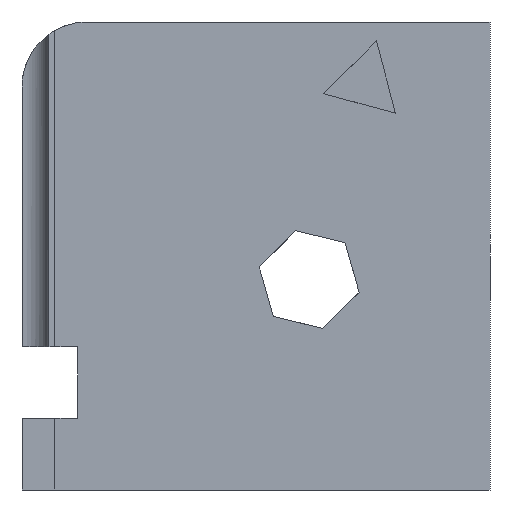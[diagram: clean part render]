
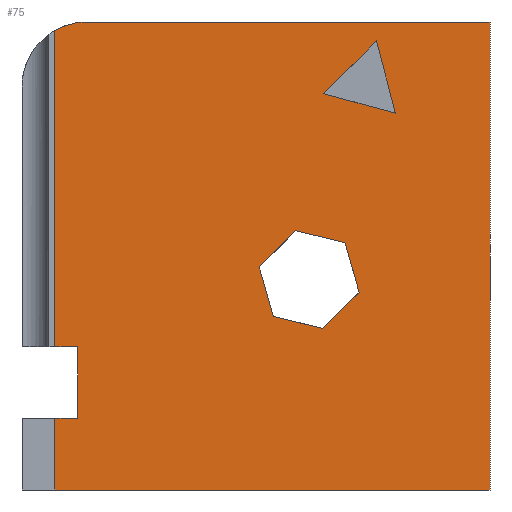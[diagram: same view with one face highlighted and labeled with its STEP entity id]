
A CAD part, front view. The second image highlights one B-rep face of the part: STEP entity #75.
In plain terms, the highlighted planar face has unit normal (0, -1, 0).
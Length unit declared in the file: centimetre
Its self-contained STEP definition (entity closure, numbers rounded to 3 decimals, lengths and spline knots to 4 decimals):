
#12 = LINE ( 'NONE', #1574, #1381 ) ;
#13 = VERTEX_POINT ( 'NONE', #1195 ) ;
#21 = VECTOR ( 'NONE', #477, 100. ) ;
#35 = VECTOR ( 'NONE', #190, 100. ) ;
#53 = ORIENTED_EDGE ( 'NONE', *, *, #1829, .T. ) ;
#75 = ADVANCED_FACE ( 'NONE', ( #1213, #912, #735 ), #901, .F. ) ;
#79 = DIRECTION ( 'NONE',  ( 0., 0., -1. ) ) ;
#88 = ORIENTED_EDGE ( 'NONE', *, *, #961, .T. ) ;
#109 = VERTEX_POINT ( 'NONE', #1048 ) ;
#117 = EDGE_CURVE ( 'NONE', #1751, #1415, #1371, .T. ) ;
#125 = VECTOR ( 'NONE', #730, 100. ) ;
#134 = CARTESIAN_POINT ( 'NONE',  ( 0., 0., 0. ) ) ;
#135 = CARTESIAN_POINT ( 'NONE',  ( 757.1955, 0., 959.6609 ) ) ;
#146 = DIRECTION ( 'NONE',  ( 0.966, 0., -0.26 ) ) ;
#179 = ORIENTED_EDGE ( 'NONE', *, *, #1235, .F. ) ;
#182 = VECTOR ( 'NONE', #590, 100. ) ;
#190 = DIRECTION ( 'NONE',  ( 1., 0., 0. ) ) ;
#205 = LINE ( 'NONE', #1608, #837 ) ;
#240 = LINE ( 'NONE', #1486, #575 ) ;
#250 = VERTEX_POINT ( 'NONE', #1748 ) ;
#267 = VERTEX_POINT ( 'NONE', #770 ) ;
#279 = CARTESIAN_POINT ( 'NONE',  ( 70.1198, 0., 1000. ) ) ;
#282 = LINE ( 'NONE', #135, #1497 ) ;
#299 = CARTESIAN_POINT ( 'NONE',  ( 118.7286, 0., 153.2835 ) ) ;
#301 = CIRCLE ( 'NONE', #762, 139.0908 ) ;
#306 = CARTESIAN_POINT ( 'NONE',  ( 70.1198, 0., 153.2835 ) ) ;
#314 = VECTOR ( 'NONE', #1364, 100. ) ;
#330 = ORIENTED_EDGE ( 'NONE', *, *, #1414, .T. ) ;
#341 = CARTESIAN_POINT ( 'NONE',  ( 0., 0., 305.9088 ) ) ;
#349 = LINE ( 'NONE', #341, #35 ) ;
#351 = ORIENTED_EDGE ( 'NONE', *, *, #449, .F. ) ;
#377 = VECTOR ( 'NONE', #634, 100. ) ;
#426 = DIRECTION ( 'NONE',  ( 0.707, 0., 0.707 ) ) ;
#429 = VECTOR ( 'NONE', #426, 100. ) ;
#439 = ORIENTED_EDGE ( 'NONE', *, *, #889, .F. ) ;
#449 = EDGE_CURVE ( 'NONE', #992, #1238, #838, .T. ) ;
#461 = VERTEX_POINT ( 'NONE', #1165 ) ;
#469 = CARTESIAN_POINT ( 'NONE',  ( 584.6951, 0., 554.2497 ) ) ;
#475 = VECTOR ( 'NONE', #1959, 100. ) ;
#477 = DIRECTION ( 'NONE',  ( 0.972, 0., -0.236 ) ) ;
#489 = EDGE_CURVE ( 'NONE', #1415, #1125, #205, .T. ) ;
#499 = EDGE_CURVE ( 'NONE', #461, #1839, #240, .T. ) ;
#506 = CARTESIAN_POINT ( 'NONE',  ( 70.1198, 0., 0. ) ) ;
#547 = VERTEX_POINT ( 'NONE', #506 ) ;
#575 = VECTOR ( 'NONE', #79, 100. ) ;
#576 = EDGE_CURVE ( 'NONE', #1125, #1419, #1054, .T. ) ;
#590 = DIRECTION ( 'NONE',  ( -0.972, 0., 0.236 ) ) ;
#595 = LINE ( 'NONE', #279, #314 ) ;
#628 = CARTESIAN_POINT ( 'NONE',  ( 139.0908, 0., 860.9092 ) ) ;
#634 = DIRECTION ( 'NONE',  ( -0.707, 0., -0.707 ) ) ;
#656 = LINE ( 'NONE', #1276, #377 ) ;
#660 = ORIENTED_EDGE ( 'NONE', *, *, #499, .T. ) ;
#692 = VERTEX_POINT ( 'NONE', #306 ) ;
#694 = DIRECTION ( 'NONE',  ( -0.274, 0., 0.962 ) ) ;
#718 = EDGE_CURVE ( 'NONE', #692, #547, #1225, .T. ) ;
#730 = DIRECTION ( 'NONE',  ( 1., 0., 0. ) ) ;
#731 = VECTOR ( 'NONE', #1706, 100. ) ;
#735 = FACE_OUTER_BOUND ( 'NONE', #1923, .T. ) ;
#740 = LINE ( 'NONE', #134, #125 ) ;
#757 = DIRECTION ( 'NONE',  ( 0., 0., -1. ) ) ;
#762 = AXIS2_PLACEMENT_3D ( 'NONE', #628, #1601, #1248 ) ;
#770 = CARTESIAN_POINT ( 'NONE',  ( 70.1198, 0., 981.6952 ) ) ;
#773 = CARTESIAN_POINT ( 'NONE',  ( 1000., 0., 1000. ) ) ;
#776 = LINE ( 'NONE', #1401, #823 ) ;
#777 = CARTESIAN_POINT ( 'NONE',  ( 584.6951, 0., 554.2497 ) ) ;
#779 = EDGE_CURVE ( 'NONE', #1753, #845, #776, .T. ) ;
#823 = VECTOR ( 'NONE', #2005, 100. ) ;
#837 = VECTOR ( 'NONE', #694, 100. ) ;
#838 = LINE ( 'NONE', #865, #475 ) ;
#845 = VERTEX_POINT ( 'NONE', #1852 ) ;
#854 = CARTESIAN_POINT ( 'NONE',  ( 0., 0., 1000. ) ) ;
#865 = CARTESIAN_POINT ( 'NONE',  ( 798.1016, 0., 805.31 ) ) ;
#874 = ORIENTED_EDGE ( 'NONE', *, *, #489, .T. ) ;
#878 = AXIS2_PLACEMENT_3D ( 'NONE', #1526, #1851, #1841 ) ;
#889 = EDGE_CURVE ( 'NONE', #109, #250, #1539, .T. ) ;
#901 = PLANE ( 'NONE',  #878 ) ;
#912 = FACE_BOUND ( 'NONE', #1681, .T. ) ;
#922 = EDGE_CURVE ( 'NONE', #13, #461, #349, .T. ) ;
#961 = EDGE_CURVE ( 'NONE', #1086, #267, #301, .T. ) ;
#973 = ORIENTED_EDGE ( 'NONE', *, *, #1879, .T. ) ;
#976 = EDGE_CURVE ( 'NONE', #1839, #692, #12, .T. ) ;
#978 = ORIENTED_EDGE ( 'NONE', *, *, #1749, .T. ) ;
#992 = VERTEX_POINT ( 'NONE', #1427 ) ;
#1000 = VERTEX_POINT ( 'NONE', #1741 ) ;
#1001 = ORIENTED_EDGE ( 'NONE', *, *, #1150, .F. ) ;
#1046 = CARTESIAN_POINT ( 'NONE',  ( 757.1955, 0., 959.6609 ) ) ;
#1048 = CARTESIAN_POINT ( 'NONE',  ( 1000., 0., 1000. ) ) ;
#1054 = LINE ( 'NONE', #1176, #429 ) ;
#1086 = VERTEX_POINT ( 'NONE', #1310 ) ;
#1125 = VERTEX_POINT ( 'NONE', #1155 ) ;
#1150 = EDGE_CURVE ( 'NONE', #1086, #109, #1501, .T. ) ;
#1155 = CARTESIAN_POINT ( 'NONE',  ( 506.9891, 0., 476.5436 ) ) ;
#1165 = CARTESIAN_POINT ( 'NONE',  ( 118.7286, 0., 305.9088 ) ) ;
#1176 = CARTESIAN_POINT ( 'NONE',  ( 506.9891, 0., 476.5436 ) ) ;
#1195 = CARTESIAN_POINT ( 'NONE',  ( 70.1198, 0., 305.9088 ) ) ;
#1210 = LINE ( 'NONE', #777, #21 ) ;
#1213 = FACE_BOUND ( 'NONE', #1289, .T. ) ;
#1219 = EDGE_CURVE ( 'NONE', #1238, #1000, #282, .T. ) ;
#1225 = LINE ( 'NONE', #1866, #731 ) ;
#1235 = EDGE_CURVE ( 'NONE', #1000, #992, #1512, .T. ) ;
#1238 = VERTEX_POINT ( 'NONE', #1046 ) ;
#1246 = ORIENTED_EDGE ( 'NONE', *, *, #718, .T. ) ;
#1248 = DIRECTION ( 'NONE',  ( 0., 0., 1. ) ) ;
#1261 = ORIENTED_EDGE ( 'NONE', *, *, #976, .T. ) ;
#1276 = CARTESIAN_POINT ( 'NONE',  ( 720.1755, 0., 422.9785 ) ) ;
#1288 = DIRECTION ( 'NONE',  ( -1., 0., 0. ) ) ;
#1289 = EDGE_LOOP ( 'NONE', ( #1537, #351, #179 ) ) ;
#1293 = VECTOR ( 'NONE', #1344, 100. ) ;
#1310 = CARTESIAN_POINT ( 'NONE',  ( 139.0908, 0., 1000. ) ) ;
#1344 = DIRECTION ( 'NONE',  ( 1., 0., 0. ) ) ;
#1364 = DIRECTION ( 'NONE',  ( 0., 0., -1. ) ) ;
#1371 = LINE ( 'NONE', #2011, #182 ) ;
#1376 = CARTESIAN_POINT ( 'NONE',  ( 690.0733, 0., 528.6822 ) ) ;
#1381 = VECTOR ( 'NONE', #1288, 100. ) ;
#1386 = CARTESIAN_POINT ( 'NONE',  ( 644.2855, 0., 846.751 ) ) ;
#1401 = CARTESIAN_POINT ( 'NONE',  ( 690.0733, 0., 528.6822 ) ) ;
#1405 = CARTESIAN_POINT ( 'NONE',  ( 537.0913, 0., 370.8399 ) ) ;
#1414 = EDGE_CURVE ( 'NONE', #845, #1751, #656, .T. ) ;
#1415 = VERTEX_POINT ( 'NONE', #1405 ) ;
#1419 = VERTEX_POINT ( 'NONE', #469 ) ;
#1427 = CARTESIAN_POINT ( 'NONE',  ( 798.1016, 0., 805.31 ) ) ;
#1460 = VECTOR ( 'NONE', #146, 100. ) ;
#1469 = ORIENTED_EDGE ( 'NONE', *, *, #922, .T. ) ;
#1486 = CARTESIAN_POINT ( 'NONE',  ( 118.7286, 0., 153.2835 ) ) ;
#1497 = VECTOR ( 'NONE', #1870, 100. ) ;
#1501 = LINE ( 'NONE', #854, #1293 ) ;
#1512 = LINE ( 'NONE', #1386, #1460 ) ;
#1518 = VECTOR ( 'NONE', #757, 100. ) ;
#1526 = CARTESIAN_POINT ( 'NONE',  ( 0., 0., 1000. ) ) ;
#1537 = ORIENTED_EDGE ( 'NONE', *, *, #1219, .F. ) ;
#1539 = LINE ( 'NONE', #773, #1518 ) ;
#1574 = CARTESIAN_POINT ( 'NONE',  ( 0., 0., 153.2835 ) ) ;
#1601 = DIRECTION ( 'NONE',  ( 0., -1., 0. ) ) ;
#1608 = CARTESIAN_POINT ( 'NONE',  ( 537.0913, 0., 370.8399 ) ) ;
#1681 = EDGE_LOOP ( 'NONE', ( #973, #1784, #330, #1799, #874, #1828 ) ) ;
#1686 = CARTESIAN_POINT ( 'NONE',  ( 642.4694, 0., 345.2724 ) ) ;
#1706 = DIRECTION ( 'NONE',  ( 0., 0., -1. ) ) ;
#1741 = CARTESIAN_POINT ( 'NONE',  ( 644.2855, 0., 846.751 ) ) ;
#1748 = CARTESIAN_POINT ( 'NONE',  ( 1000., 0., 0. ) ) ;
#1749 = EDGE_CURVE ( 'NONE', #267, #13, #595, .T. ) ;
#1751 = VERTEX_POINT ( 'NONE', #1686 ) ;
#1753 = VERTEX_POINT ( 'NONE', #1376 ) ;
#1784 = ORIENTED_EDGE ( 'NONE', *, *, #779, .T. ) ;
#1799 = ORIENTED_EDGE ( 'NONE', *, *, #117, .T. ) ;
#1828 = ORIENTED_EDGE ( 'NONE', *, *, #576, .T. ) ;
#1829 = EDGE_CURVE ( 'NONE', #547, #250, #740, .T. ) ;
#1839 = VERTEX_POINT ( 'NONE', #299 ) ;
#1841 = DIRECTION ( 'NONE',  ( 0., 0., 1. ) ) ;
#1851 = DIRECTION ( 'NONE',  ( 0., 1., 0. ) ) ;
#1852 = CARTESIAN_POINT ( 'NONE',  ( 720.1755, 0., 422.9785 ) ) ;
#1866 = CARTESIAN_POINT ( 'NONE',  ( 70.1198, 0., 1000. ) ) ;
#1870 = DIRECTION ( 'NONE',  ( -0.707, 0., -0.707 ) ) ;
#1879 = EDGE_CURVE ( 'NONE', #1419, #1753, #1210, .T. ) ;
#1923 = EDGE_LOOP ( 'NONE', ( #660, #1261, #1246, #53, #439, #1001, #88, #978, #1469 ) ) ;
#1959 = DIRECTION ( 'NONE',  ( -0.256, 0., 0.967 ) ) ;
#2005 = DIRECTION ( 'NONE',  ( 0.274, 0., -0.962 ) ) ;
#2011 = CARTESIAN_POINT ( 'NONE',  ( 642.4694, 0., 345.2724 ) ) ;
